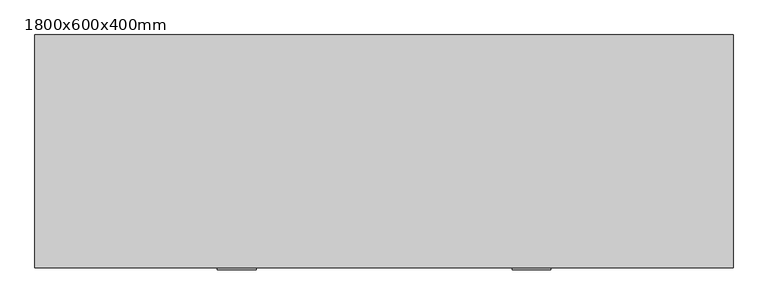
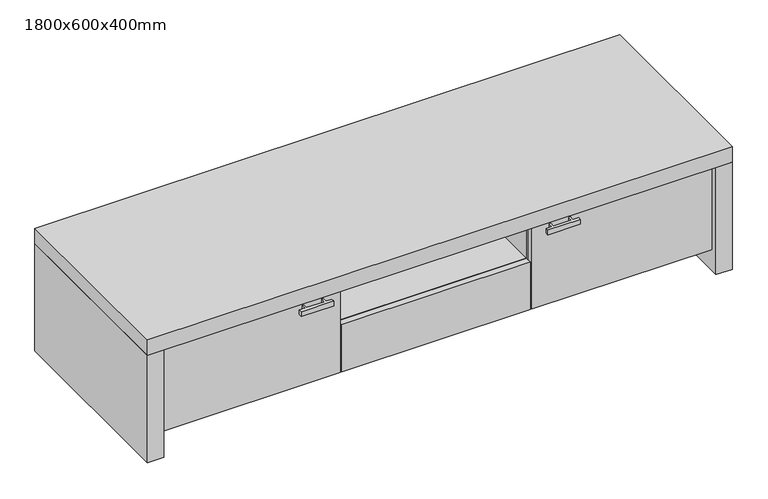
"""IFC4 building model written with IfcOpenShell, lengths in millimetres: furniture geometry, 캐비닛 TV : 1800x600x400mm."""

from ifc_helpers import new_model, si_unit, frame, origin, origin_with_axes, place, context, project, spatial, polyline, outline, extrude, source, transform, mapped, element, save


def furniture_1800x600x400mm_3b2bede9(model_context):
    return source(origin(), model_context, "Body", "SweptSolid", [
        extrude(outline(polyline([(-412.5, -261.5), (-412.5, -246.5), (-407.5, -246.5), (-407.5, -261.5), (-352.5, -261.5), (-352.5, -246.5), (-347.5, -246.5), (-347.5, -261.5), (-330.0, -261.5), (-330.0, -271.5), (-430.0, -271.5), (-430.0, -261.5), (-412.5, -261.5)])), frame((0.0, 0.0, 315.0), z_axis=(0.0, 0.0, 1.0), x_axis=(1.0, 0.0, 0.0)), (0.0, 0.0, 1.0), 15.0),
        extrude(outline(polyline([(412.5, -261.5), (430.0, -261.5), (430.0, -271.5), (330.0, -271.5), (330.0, -261.5), (347.5, -261.5), (347.5, -246.5), (352.5, -246.5), (352.5, -261.5), (407.5, -261.5), (407.5, -246.5), (412.5, -246.5), (412.5, -261.5)])), frame((0.0, 0.0, 315.0), z_axis=(0.0, 0.0, 1.0), x_axis=(1.0, 0.0, 0.0)), (0.0, 0.0, 1.0), 15.0),
        extrude(outline(polyline([(290.0, -226.5), (290.0, -246.5), (-290.0, -246.5), (-290.0, -226.5), (290.0, -226.5)])), frame((0.0, 0.0, 70.0), z_axis=(0.0, 0.0, 1.0), x_axis=(1.0, 0.0, 0.0)), (0.0, 0.0, 1.0), 155.0),
        extrude(outline(polyline([(290.0, 308.5), (290.0, -224.5), (-290.0, -224.5), (-290.0, 308.5), (290.0, 308.5)])), frame((0.0, 0.0, 215.0), z_axis=(0.0, 0.0, 1.0), x_axis=(1.0, 0.0, 0.0)), (0.0, 0.0, 1.0), 10.0),
        extrude(outline(polyline([(-290.0, 308.5), (-290.0, -224.5), (-310.0, -224.5), (-310.0, 308.5), (-290.0, 308.5)])), frame((0.0, 0.0, 90.0), z_axis=(0.0, 0.0, 1.0), x_axis=(1.0, 0.0, 0.0)), (0.0, 0.0, 1.0), 260.0),
        extrude(outline(polyline([(290.0, 308.5), (310.0, 308.5), (310.0, -224.5), (290.0, -224.5), (290.0, 308.5)])), frame((0.0, 0.0, 90.0), z_axis=(0.0, 0.0, 1.0), x_axis=(1.0, 0.0, 0.0)), (0.0, 0.0, 1.0), 260.0),
        extrude(outline(polyline([(850.0, 308.5), (850.0, -224.5), (-850.0, -224.5), (-850.0, 308.5), (850.0, 308.5)])), frame((0.0, 0.0, 70.0), z_axis=(0.0, 0.0, 1.0), x_axis=(1.0, 0.0, 0.0)), (0.0, 0.0, 1.0), 20.0),
        extrude(outline(polyline([(-295.0, -226.5), (-295.0, -246.5), (-850.0, -246.5), (-850.0, -226.5), (-295.0, -226.5)])), frame((0.0, 0.0, 70.0), z_axis=(0.0, 0.0, 1.0), x_axis=(1.0, 0.0, 0.0)), (0.0, 0.0, 1.0), 278.0),
        extrude(outline(polyline([(295.0, -226.5), (850.0, -226.5), (850.0, -246.5), (295.0, -246.5), (295.0, -226.5)])), frame((0.0, 0.0, 70.0), z_axis=(0.0, 0.0, 1.0), x_axis=(1.0, 0.0, 0.0)), (0.0, 0.0, 1.0), 278.0),
        extrude(outline(polyline([(900.0, 333.5), (900.0, -266.5), (-900.0, -266.5), (-900.0, 333.5), (900.0, 333.5)])), frame((0.0, 0.0, 350.0), z_axis=(0.0, 0.0, 1.0), x_axis=(1.0, 0.0, 0.0)), (0.0, 0.0, 1.0), 50.0),
        extrude(outline(polyline([(850.0, 328.5), (850.0, 308.5), (-850.0, 308.5), (-850.0, 328.5), (850.0, 328.5)])), frame((0.0, 0.0, 70.0), z_axis=(0.0, 0.0, 1.0), x_axis=(1.0, 0.0, 0.0)), (0.0, 0.0, 1.0), 280.0),
        extrude(outline(polyline([(-850.0, 333.5), (-850.0, -266.5), (-900.0, -266.5), (-900.0, 333.5), (-850.0, 333.5)])), origin_with_axes(), (0.0, 0.0, 1.0), 350.0),
        extrude(outline(polyline([(850.0, 333.5), (900.0, 333.5), (900.0, -266.5), (850.0, -266.5), (850.0, 333.5)])), origin_with_axes(), (0.0, 0.0, 1.0), 350.0),
    ])


if __name__ == "__main__":
    model = new_model("IFC4")
    model_context = context("Model", 3, world=origin())
    ifc_project = project(units=[si_unit("LENGTHUNIT", "METRE", prefix="MILLI")], contexts=[model_context])
    site = spatial("IfcSite", under=ifc_project)
    building = spatial("IfcBuilding", under=site)
    placement = place(None, origin())
    furniture_1800x600x400mm_shape = furniture_1800x600x400mm_3b2bede9(model_context)
    element("IfcFurniture", 1, ObjectType="캐비닛 TV : 1800x600x400mm", at=placement, inside=building, context=model_context, shape_type="MappedRepresentation", body=[
        mapped(furniture_1800x600x400mm_shape, transform((0.0, 0.0, 0.0), x_axis=(1.0, 0.0, 0.0), y_axis=(0.0, 1.0, 0.0), z_axis=(0.0, 0.0, 1.0))),
    ])
    save(model, "model.ifc")
